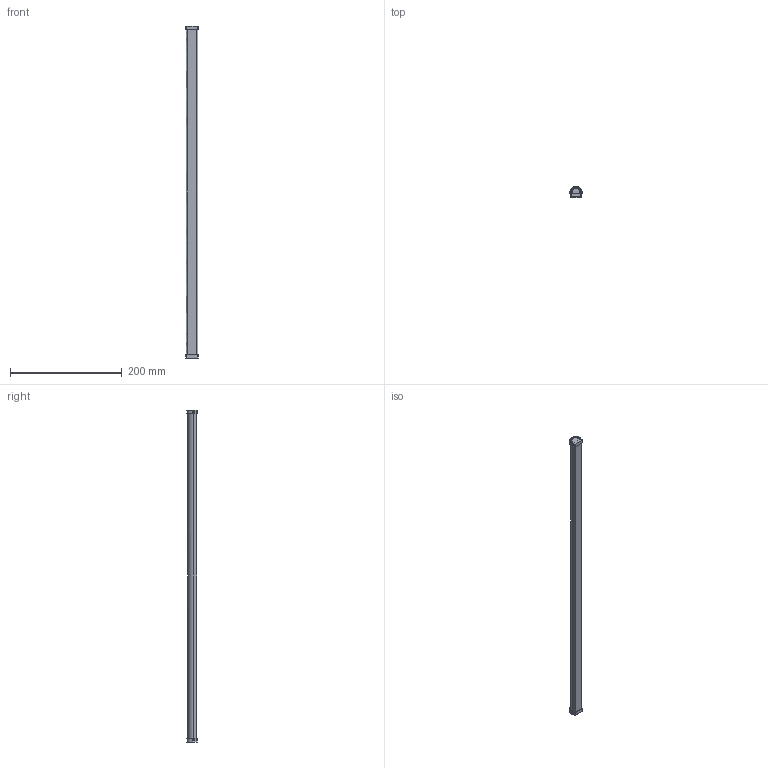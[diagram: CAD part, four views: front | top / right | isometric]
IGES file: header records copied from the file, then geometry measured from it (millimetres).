
Start section: SolidWorks IGES file using analytic representation for surfaces
Global section: file name: C:\Users\JoãoSantos\Desktop\02_3D.2D\01_2020\02_Linear\13_Limit\01_Limit\LIMIT_595.IGS; native system: SolidWorks 2020; preprocessor: SolidWorks 2020; author: JoãoSantos; date: 201023.143208; units: millimetre
Bounding box: 22.93 x 18.8 x 595 mm (x, y, z)
Surface area: 74388 mm2 (no closed solid volume)
Topology: 0 solids, 0 shells, 76 faces, 676 edges, 676 vertices
Faces by surface type: bspline 51, revolution 25
